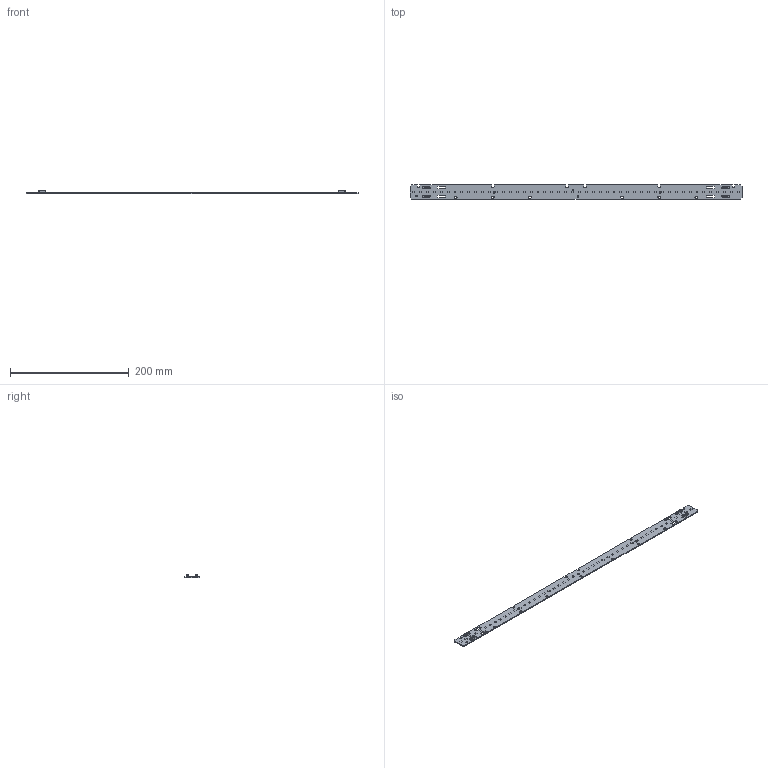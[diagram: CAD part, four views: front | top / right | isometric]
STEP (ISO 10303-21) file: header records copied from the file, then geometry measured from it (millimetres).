
FILE_DESCRIPTION((''),'2;1');
FILE_NAME('16208811_LLE-G5-LV-24X560-2400L','2018-08-29T14:54:41',('bernhard.fink'),(''),'CREO PARAMETRIC BY PTC INC, 2017380','CREO PARAMETRIC BY PTC INC, 2017380','');
FILE_SCHEMA(('AUTOMOTIVE_DESIGN { 1 0 10303 214 1 1 1 1 }'));
Products named in the file (1): 16208811_LLE-G5-LV-24X560-2400L
Bounding box: 559 x 23.6 x 5.1 mm (x, y, z)
Volume: 21771.7 mm3; surface area: 29035.1 mm2
Topology: 1 solids, 1 shells, 1560 faces, 3950 edges, 2421 vertices
Faces by surface type: plane 757, cylinder 413, bspline 240, cone 68, sphere 56, torus 26
Entity records: 78729 total; most frequent: CARTESIAN_POINT 20868, ORIENTED_EDGE 7796, DIRECTION 6154, PRESENTATION_STYLE_ASSIGNMENT 5453, STYLED_ITEM 3899, CURVE_STYLE 3898, EDGE_CURVE 3898, VECTOR 2418
